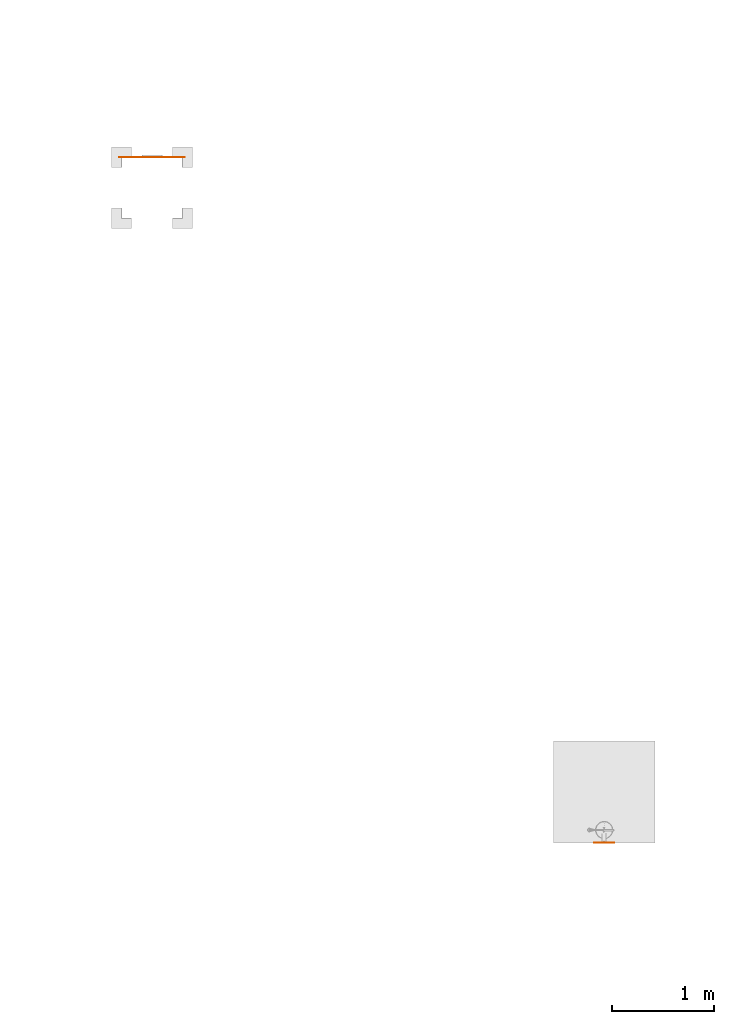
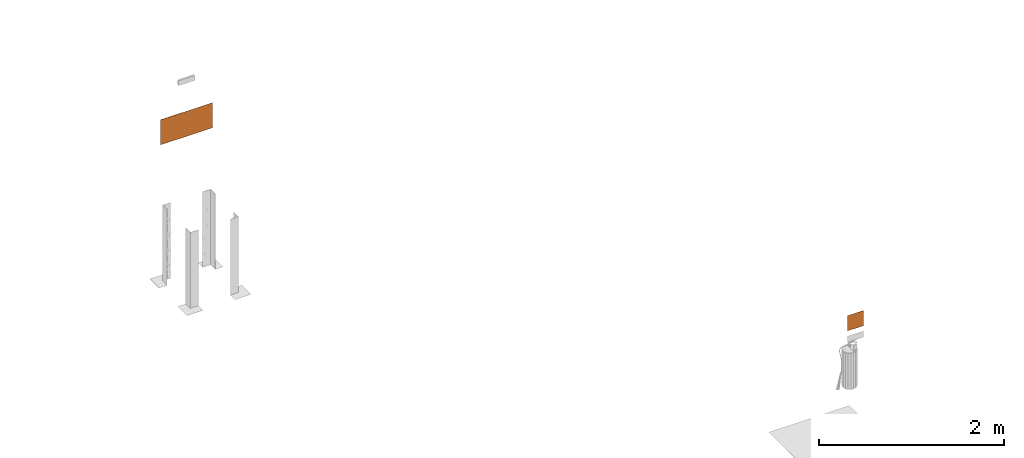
# One storey, part 104 of 119: 2 proxies.
"""IFC2X3 building model written with IfcOpenShell, lengths in metres."""

from ifc_helpers import new_model, entity, si_unit, converted_unit, derived_unit, direction, frame, frame_2d, origin, origin_2d_with_axis, place, context, subcontext, project, spatial, polyline, circle_curve, parameter, trimmed, segment, composite_curve, rectangle, outline, extrude, source, transform, mapped, material, material_list, type_object, type_shapes, element, save


model = new_model("IFC2X3")

# Units and contexts
model_context = context("Model", 3, precision=1e-05, world=origin(), true_north=direction((6.12303176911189e-17, 1.0)))
body_context = subcontext(model_context, "Body", "Model", "MODEL_VIEW")
ifc_project = project(units=[si_unit("LENGTHUNIT", "METRE"), si_unit("AREAUNIT", "SQUARE_METRE"), si_unit("VOLUMEUNIT", "CUBIC_METRE"), converted_unit("PLANEANGLEUNIT", "DEGREE", entity("IfcRatioMeasure", 0.0174532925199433), si_unit("PLANEANGLEUNIT", "RADIAN"), dimensions=[0, 0, 0, 0, 0, 0, 0]), si_unit("MASSUNIT", "GRAM", prefix="KILO"), derived_unit("MASSDENSITYUNIT", [(si_unit("MASSUNIT", "GRAM", prefix="KILO"), 1), (si_unit("LENGTHUNIT", "METRE"), -3)]), derived_unit("MOMENTOFINERTIAUNIT", [(si_unit("LENGTHUNIT", "METRE"), 4)]), si_unit("TIMEUNIT", "SECOND"), si_unit("FREQUENCYUNIT", "HERTZ"), si_unit("THERMODYNAMICTEMPERATUREUNIT", "DEGREE_CELSIUS"), derived_unit("THERMALTRANSMITTANCEUNIT", [(si_unit("MASSUNIT", "GRAM", prefix="KILO"), 1), (si_unit("THERMODYNAMICTEMPERATUREUNIT", "KELVIN"), -1), (si_unit("TIMEUNIT", "SECOND"), -3)]), derived_unit("VOLUMETRICFLOWRATEUNIT", [(si_unit("LENGTHUNIT", "METRE"), 3), (si_unit("TIMEUNIT", "SECOND"), -1)]), si_unit("ELECTRICCURRENTUNIT", "AMPERE"), si_unit("ELECTRICVOLTAGEUNIT", "VOLT"), si_unit("POWERUNIT", "WATT"), si_unit("FORCEUNIT", "NEWTON", prefix="KILO"), si_unit("ILLUMINANCEUNIT", "LUX"), si_unit("LUMINOUSFLUXUNIT", "LUMEN"), si_unit("LUMINOUSINTENSITYUNIT", "CANDELA"), derived_unit("USERDEFINED", [(si_unit("MASSUNIT", "GRAM", prefix="KILO"), -1), (si_unit("LENGTHUNIT", "METRE"), -2), (si_unit("TIMEUNIT", "SECOND"), 3), (si_unit("LUMINOUSFLUXUNIT", "LUMEN"), 1)]), derived_unit("LINEARVELOCITYUNIT", [(si_unit("LENGTHUNIT", "METRE"), 1), (si_unit("TIMEUNIT", "SECOND"), -1)]), si_unit("PRESSUREUNIT", "PASCAL"), derived_unit("USERDEFINED", [(si_unit("LENGTHUNIT", "METRE"), -2), (si_unit("MASSUNIT", "GRAM", prefix="KILO"), 1), (si_unit("TIMEUNIT", "SECOND"), -2)]), derived_unit("LINEARFORCEUNIT", [(si_unit("MASSUNIT", "GRAM", prefix="KILO"), 1), (si_unit("LENGTHUNIT", "METRE"), 1), (si_unit("TIMEUNIT", "SECOND"), -2), (si_unit("LENGTHUNIT", "METRE"), -1)]), derived_unit("PLANARFORCEUNIT", [(si_unit("MASSUNIT", "GRAM", prefix="KILO"), 1), (si_unit("LENGTHUNIT", "METRE"), 1), (si_unit("TIMEUNIT", "SECOND"), -2), (si_unit("LENGTHUNIT", "METRE"), -2)])], contexts=[model_context])

# Site, building, storey
site_placement = place(None, origin())
site = spatial("IfcSite", under=ifc_project, at=site_placement, Name="Default", CompositionType="ELEMENT")
building_placement = place(site_placement, origin())
building = spatial("IfcBuilding", under=site, at=building_placement, CompositionType="ELEMENT")
storey_placement = place(building_placement, origin())
storey = spatial("IfcBuildingStorey", under=building, at=storey_placement, Name="PAV. 01 - TÉRREO", CompositionType="ELEMENT", Elevation=0.0)

# Proxies
ifc_material_1 = material(Name="Plastico branco")
ifc_material_2 = material(Name="Plastico Verde")
ifc_material_list_1 = material_list([ifc_material_1, ifc_material_2])
building_element_proxy_type_1 = type_object("IfcBuildingElementProxyType", Name="Sinalização de orientação - S02 - Indicação do sentido da saída de emergência esquerda:Distância 20m", PredefinedType="NOTDEFINED", material=ifc_material_1)
shared_shape_1 = source(origin(), body_context, "Body", "SweptSolid", [
    extrude(outline(polyline([(-0.0447808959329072, -0.0403053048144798), (-0.043171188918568, -0.0403053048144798), (-0.0413200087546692, -0.0389366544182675), (-0.0392890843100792, -0.0364788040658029), (-0.0371401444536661, -0.033211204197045), (-0.0349349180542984, -0.0294133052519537), (-0.0265856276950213, -0.0138527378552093), (-0.0227430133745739, -0.00709511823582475), (-0.0208230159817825, -0.00397540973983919), (-0.0188699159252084, -0.00102040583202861), (-0.0168582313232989, 0.00177591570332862), (-0.0147624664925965, 0.00441959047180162), (-0.0125318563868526, 0.00694116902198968), (-0.0100380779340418, 0.00944644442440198), (-0.00713797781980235, 0.0120555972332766), (-0.00368840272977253, 0.0148888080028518), (0.000453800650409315, 0.018066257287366), (0.0268119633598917, 0.0366220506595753), (0.00900823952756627, 0.0460096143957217), (0.00759831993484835, 0.0467239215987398), (0.00663979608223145, 0.0471861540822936), (0.00601886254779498, 0.047454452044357), (0.00562171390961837, 0.0475869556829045), (0.005334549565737, 0.047641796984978), (0.00505495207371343, 0.0476577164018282), (0.00471625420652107, 0.047612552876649), (0.00425878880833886, 0.0474722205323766), (0.00362288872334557, 0.0472026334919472), (0.00274888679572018, 0.046769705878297), (0.00157711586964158, 0.0461393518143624), (-0.0256767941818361, 0.0298988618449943), (-0.0282489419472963, 0.0288779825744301), (-0.0306367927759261, 0.0282861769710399), (-0.0328328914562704, 0.028086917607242), (-0.0348297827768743, 0.0282436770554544), (-0.0366200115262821, 0.0287199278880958), (-0.0381961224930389, 0.0294791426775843), (-0.0395506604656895, 0.0304847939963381), (-0.0406761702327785, 0.0317003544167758), (-0.041565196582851, 0.0330892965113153), (-0.0422102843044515, 0.0346150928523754), (-0.0426039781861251, 0.036241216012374), (-0.0427388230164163, 0.0379311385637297), (-0.0426073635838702, 0.0396483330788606), (-0.0422021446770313, 0.0413562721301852), (-0.0415157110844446, 0.0430184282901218), (-0.040540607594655, 0.0445982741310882), (-0.0392693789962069, 0.0460592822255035), (-0.0376945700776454, 0.0473649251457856), (-0.020544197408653, 0.0580635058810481), (-0.00936529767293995, 0.0647230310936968), (-0.00237080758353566, 0.0682051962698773), (0.00222633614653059, 0.0693716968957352), (0.00619530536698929, 0.069077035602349), (0.0105721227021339, 0.0678809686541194), (0.0154180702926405, 0.0659513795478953), (0.0207269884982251, 0.0634290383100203), (0.0636286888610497, 0.0407952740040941), (0.0681400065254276, 0.0382962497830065), (0.0719015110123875, 0.0357625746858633), (0.0750089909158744, 0.032796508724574), (0.0775582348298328, 0.0290003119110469), (0.0796450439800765, 0.0239762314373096), (0.0814169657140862, 0.0172739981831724), (0.0831911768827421, 0.00827118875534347), (0.0881539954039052, -0.0192667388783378), (0.114405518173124, -0.0331658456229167), (0.169612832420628, 0.0711053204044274), (0.00387253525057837, 0.158858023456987), (-0.0853121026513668, -0.00958679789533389), (-0.0933374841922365, -0.00533768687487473), (-0.141866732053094, -0.0260508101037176), (-0.104503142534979, -0.0458333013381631), (-0.122153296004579, -0.0791695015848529), (-0.150380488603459, -0.0881243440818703), (-0.0339389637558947, -0.149775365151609), (-0.00485925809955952, -0.141271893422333), (0.0203339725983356, -0.154610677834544), (-0.0128105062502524, -0.160962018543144), (0.0158595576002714, -0.176141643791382), (0.043587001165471, -0.166922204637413), (0.104490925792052, -0.0518917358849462), (0.0750538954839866, -0.0363119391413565), (0.0725734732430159, -0.034899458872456), (0.0706715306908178, -0.0335889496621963), (0.0692214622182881, -0.0322141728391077), (0.0680966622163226, -0.0306088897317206), (0.0671705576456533, -0.0286069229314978), (0.0663377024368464, -0.0260818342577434), (0.0655501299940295, -0.0230153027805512), (0.0647695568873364, -0.0194072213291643), (0.060951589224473, 0.000442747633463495), (0.0287102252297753, -0.0230602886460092), (0.0246142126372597, -0.146526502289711), (-0.000579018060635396, -0.133187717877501), (-0.00053001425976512, -0.0237630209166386), (-0.0206753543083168, -0.0530682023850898), (-0.0230063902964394, -0.0567384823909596), (-0.0251862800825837, -0.0599201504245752), (-0.027294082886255, -0.0625984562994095), (-0.0294088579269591, -0.0647586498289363), (-0.0316096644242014, -0.0663859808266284), (-0.0339755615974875, -0.0674656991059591), (-0.0365856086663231, -0.0679830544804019), (-0.0395188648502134, -0.0679232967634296), (-0.0428543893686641, -0.0672716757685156), (-0.0466712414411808, -0.0660134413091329), (-0.051048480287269, -0.0641338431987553), (-0.0560651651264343, -0.0616181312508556), (-0.118768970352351, -0.0284190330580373), (-0.0891409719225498, -0.0168184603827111), (-0.0447808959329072, -0.0403053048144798)]), holes=[composite_curve([segment(trimmed(circle_curve(frame_2d((0.0860212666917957, 0.0597350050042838), x_axis=(0.883770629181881, -0.467920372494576)), 0.0222863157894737), [parameter(180.0)], [parameter(0.0)], True, "PARAMETER"), False, "CONTINUOUS"), segment(trimmed(circle_curve(frame_2d((0.0860212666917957, 0.0597350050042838), x_axis=(0.883770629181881, -0.467920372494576)), 0.0222863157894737), [parameter(3.56222124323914e-13)], [parameter(180.0)], True, "PARAMETER"), False, "CONTINUOUS")], self_intersect=False)]), frame((0.18787689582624, -0.00110000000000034, 1.9685208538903), z_axis=(0.0, 1.0, 0.0), x_axis=(-0.883770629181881, 0.0, 0.467920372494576)), (0.0, 0.0, 1.0), 0.0011),
    extrude(outline(polyline([(-0.323500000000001, -0.165500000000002), (0.323500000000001, -0.165500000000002), (0.323500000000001, 0.165500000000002), (-0.323500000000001, 0.165500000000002), (-0.323500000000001, -0.165500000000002)]), holes=[polyline([(-0.316000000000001, -0.158000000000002), (-0.316000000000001, 0.157999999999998), (0.315999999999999, 0.157999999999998), (0.315999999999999, -0.158000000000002), (-0.316000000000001, -0.158000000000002)])]), frame((0.0, -0.0011, 1.9655), z_axis=(0.0, 1.0, 0.0), x_axis=(1.0, 0.0, 0.0)), (0.0, 0.0, 1.0), 0.0011),
    extrude(rectangle(XDim=0.632, YDim=0.001, at=origin_2d_with_axis()), frame((0.0, -0.0005, 1.8075)), (0.0, 0.0, 1.0), 0.316000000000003),
    extrude(outline(polyline([(-0.0567986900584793, -0.0957978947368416), (0.0276564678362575, -0.0957978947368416), (-0.0363085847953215, -0.0318328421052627), (0.141749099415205, -0.0318328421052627), (0.141749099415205, 0.0318328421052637), (-0.0363085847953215, 0.0318328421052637), (0.0276564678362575, 0.0957978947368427), (-0.0567986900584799, 0.0957978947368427), (-0.152596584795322, 0.0), (-0.0567986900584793, -0.0957978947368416)])), frame((-0.141749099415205, -0.0011, 1.9655), z_axis=(0.0, 1.0, 0.0), x_axis=(1.0, 0.0, 0.0)), (0.0, 0.0, 1.0), 0.0011),
])
type_shapes(building_element_proxy_type_1, [shared_shape_1])
proxy_1_placement = place(storey_placement, frame((66.1738001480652, 32.2286443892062, 0.0), z_axis=(0.0, 0.0, 1.0), x_axis=(-1.0, 0.0, 0.0)))
element("IfcBuildingElementProxy", 1, at=proxy_1_placement, inside=storey, type_object=building_element_proxy_type_1, material=ifc_material_list_1, Name="Sinalização de orientação - S02 - Indicação do sentido da saída de emergência esquerda:Distância 20m", ObjectType="Sinalização de orientação - S02 - Indicação do sentido da saída de emergência esquerda:Distância 20m", context=body_context, shape_type="MappedRepresentation", body=[
    mapped(shared_shape_1, transform((0.0, 0.0, 0.0), scale=1.0)),
])
ifc_material_3 = material(Name="Plastico vermelho")
ifc_material_list_2 = material_list([ifc_material_1, ifc_material_3])
building_element_proxy_type_2 = type_object("IfcBuildingElementProxyType", Name="Sinalização de equipamentos - E05 - Extintor de incêndio:Distância 08m", PredefinedType="NOTDEFINED", material=ifc_material_1)
shared_shape_2 = source(origin(), body_context, "Body", "SweptSolid", [
    extrude(outline(composite_curve([segment(polyline([(-0.039533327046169, -0.0988107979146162), (0.0136590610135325, -0.0988107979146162)]), True, "CONTINUOUS"), segment(polyline([(0.0136590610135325, -0.0988107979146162), (0.0136590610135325, -0.0150548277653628)]), True, "CONTINUOUS"), segment(polyline([(0.0136590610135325, -0.0150548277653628), (0.0132403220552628, -0.0112272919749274)]), True, "CONTINUOUS"), segment(polyline([(0.0132403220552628, -0.0112272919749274), (0.0119841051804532, -0.00798860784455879)]), True, "CONTINUOUS"), segment(polyline([(0.0119841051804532, -0.00798860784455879), (0.00989041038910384, -0.00533877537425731)]), True, "CONTINUOUS"), segment(polyline([(0.00989041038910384, -0.00533877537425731), (0.00695923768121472, -0.00327779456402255)]), True, "CONTINUOUS"), segment(polyline([(0.00695923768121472, -0.00327779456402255), (0.00319058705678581, -0.00180566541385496)]), True, "CONTINUOUS"), segment(polyline([(0.00319058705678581, -0.00180566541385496), (-0.00141554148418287, -0.000922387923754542)]), True, "CONTINUOUS"), segment(polyline([(-0.00141554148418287, -0.000922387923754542), (-0.00685914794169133, -0.000627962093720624)]), True, "CONTINUOUS"), segment(polyline([(-0.00685914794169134, -0.000627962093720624), (-0.00685914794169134, 0.00837547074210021)]), True, "CONTINUOUS"), segment(polyline([(-0.00685914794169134, 0.00837547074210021), (0.000568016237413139, 0.00837547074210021)]), True, "CONTINUOUS"), segment(polyline([(0.000568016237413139, 0.00837547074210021), (0.021500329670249, -0.0075875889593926)]), True, "CONTINUOUS"), segment(polyline([(0.021500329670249, -0.0075875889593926), (0.021500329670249, -0.0104328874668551)]), True, "CONTINUOUS"), segment(polyline([(0.021500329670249, -0.0104328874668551), (0.0245059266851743, -0.0104328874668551)]), True, "CONTINUOUS"), segment(polyline([(0.0245059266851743, -0.0104328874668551), (0.0245059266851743, -0.00811335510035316)]), True, "CONTINUOUS"), segment(polyline([(0.0245059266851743, -0.00811335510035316), (0.0243642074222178, -0.00545038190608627)]), True, "CONTINUOUS"), segment(polyline([(0.0243642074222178, -0.00545038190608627), (0.0239570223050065, -0.0032112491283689)]), True, "CONTINUOUS"), segment(polyline([(0.0239570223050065, -0.0032112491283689), (0.0233113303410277, -0.00132119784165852)]), True, "CONTINUOUS"), segment(polyline([(0.0233113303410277, -0.00132119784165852), (0.0224540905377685, 0.00029453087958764)]), True, "CONTINUOUS"), segment(polyline([(0.0224540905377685, 0.00029453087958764), (0.0214122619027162, 0.00171069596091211)]), True, "CONTINUOUS"), segment(polyline([(0.0214122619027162, 0.00171069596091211), (0.0202128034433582, 0.00300205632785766)]), True, "CONTINUOUS"), segment(polyline([(0.0202128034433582, 0.00300205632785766), (0.0188826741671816, 0.00424337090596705)]), True, "CONTINUOUS"), segment(polyline([(0.0188826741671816, 0.00424337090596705), (0.0144021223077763, 0.00811180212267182)]), True, "CONTINUOUS"), segment(polyline([(0.0144021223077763, 0.00811180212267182), (0.0113518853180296, 0.0106145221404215)]), True, "CONTINUOUS"), segment(polyline([(0.0113518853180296, 0.0106145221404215), (0.0085825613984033, 0.0127576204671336)]), True, "CONTINUOUS"), segment(polyline([(0.0085825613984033, 0.0127576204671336), (0.00738733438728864, 0.0136170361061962)]), True, "CONTINUOUS"), segment(polyline([(0.00738733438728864, 0.0136170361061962), (0.00631521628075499, 0.0143235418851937)]), True, "CONTINUOUS"), segment(polyline([(0.00631521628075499, 0.0143235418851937), (0.00532850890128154, 0.0148903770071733)]), True, "CONTINUOUS"), segment(polyline([(0.00532850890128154, 0.0148903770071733), (0.00438926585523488, 0.0153309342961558)]), True, "CONTINUOUS"), segment(polyline([(0.00438926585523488, 0.0153309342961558), (0.00345954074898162, 0.0156586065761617)]), True, "CONTINUOUS"), segment(polyline([(0.00345954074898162, 0.0156586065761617), (0.00250138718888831, 0.0158867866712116)]), True, "CONTINUOUS"), segment(polyline([(0.00250138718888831, 0.0158867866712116), (0.00144087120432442, 0.0160289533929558)]), True, "CONTINUOUS"), segment(polyline([(0.00144087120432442, 0.0160289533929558), (-0.000108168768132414, 0.0160993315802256)]), True, "CONTINUOUS"), segment(polyline([(-0.000108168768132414, 0.0160993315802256), (-0.00685914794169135, 0.0160831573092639)]), True, "CONTINUOUS"), segment(polyline([(-0.00685914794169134, 0.0160831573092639), (-0.00685914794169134, 0.0213863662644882)]), True, "CONTINUOUS"), segment(polyline([(-0.00685914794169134, 0.0213863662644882), (-0.0177728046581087, 0.0213863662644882)]), True, "CONTINUOUS"), segment(polyline([(-0.0177728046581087, 0.0213863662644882), (-0.0177728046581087, 0.0160831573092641)]), True, "CONTINUOUS"), segment(polyline([(-0.0177728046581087, 0.0160831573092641), (-0.0288467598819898, 0.0160831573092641)]), True, "CONTINUOUS"), segment(trimmed(circle_curve(frame_2d((-0.0288467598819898, 0.0122293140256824), x_axis=(-1.0, 0.0)), 0.00385384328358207), [parameter(270.0)], [parameter(90.0000000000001)], True, "PARAMETER"), True, "CONTINUOUS"), segment(polyline([(-0.0288467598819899, 0.00837547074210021), (-0.0190151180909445, 0.00837547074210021)]), True, "CONTINUOUS"), segment(polyline([(-0.0190151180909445, 0.00837547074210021), (-0.0190151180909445, -0.000627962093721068)]), True, "CONTINUOUS"), segment(polyline([(-0.0190151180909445, -0.000627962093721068), (-0.024458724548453, -0.000922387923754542)]), True, "CONTINUOUS"), segment(polyline([(-0.024458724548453, -0.000922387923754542), (-0.0290648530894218, -0.00180566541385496)]), True, "CONTINUOUS"), segment(polyline([(-0.0290648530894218, -0.00180566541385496), (-0.0328335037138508, -0.00327779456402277)]), True, "CONTINUOUS"), segment(polyline([(-0.0328335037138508, -0.00327779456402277), (-0.03576467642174, -0.00533877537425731)]), True, "CONTINUOUS"), segment(polyline([(-0.03576467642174, -0.00533877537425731), (-0.0378583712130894, -0.00798860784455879)]), True, "CONTINUOUS"), segment(polyline([(-0.0378583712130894, -0.00798860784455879), (-0.0391145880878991, -0.0112272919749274)]), True, "CONTINUOUS"), segment(polyline([(-0.0391145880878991, -0.0112272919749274), (-0.039533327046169, -0.0150548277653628)]), True, "CONTINUOUS"), segment(polyline([(-0.039533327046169, -0.0150548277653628), (-0.039533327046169, -0.0988107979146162)]), True, "CONTINUOUS")], self_intersect=False)), frame((-0.0129371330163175, 0.0, 1.94006139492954), z_axis=(0.0, 1.0, 0.0), x_axis=(-1.0, 0.0, 0.0)), (0.0, 0.0, 1.0), 0.0011),
    extrude(rectangle(XDim=0.179, YDim=0.001, at=origin_2d_with_axis()), frame((0.0, 0.0005, 1.8105), z_axis=(0.0, 0.0, 1.0), x_axis=(-1.0, 0.0, 0.0)), (0.0, 0.0, 1.0), 0.179),
    extrude(outline(polyline([(-0.100000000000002, -0.1), (0.100000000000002, -0.1), (0.100000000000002, 0.1), (-0.100000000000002, 0.1), (-0.100000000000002, -0.1)]), holes=[polyline([(-0.0895000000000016, -0.0895000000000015), (-0.0895000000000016, 0.0894999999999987), (0.0894999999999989, 0.0894999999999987), (0.0894999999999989, -0.0895000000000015), (-0.0895000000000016, -0.0895000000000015)])]), frame((0.0, 0.0, 1.9), z_axis=(0.0, 1.0, 0.0), x_axis=(0.0, 0.0, -1.0)), (0.0, 0.0, 1.0), 0.001),
])
type_shapes(building_element_proxy_type_2, [shared_shape_2])
proxy_2_placement = place(storey_placement, frame((70.6204225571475, 25.4871958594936, 0.0)))
element("IfcBuildingElementProxy", 2, at=proxy_2_placement, inside=storey, type_object=building_element_proxy_type_2, material=ifc_material_list_2, Name="Sinalização de equipamentos - E05 - Extintor de incêndio:Distância 08m", ObjectType="Sinalização de equipamentos - E05 - Extintor de incêndio:Distância 08m", context=body_context, shape_type="MappedRepresentation", body=[
    mapped(shared_shape_2, transform((0.0, 0.0, 0.0), scale=1.0)),
])

save(model, "model.ifc")
